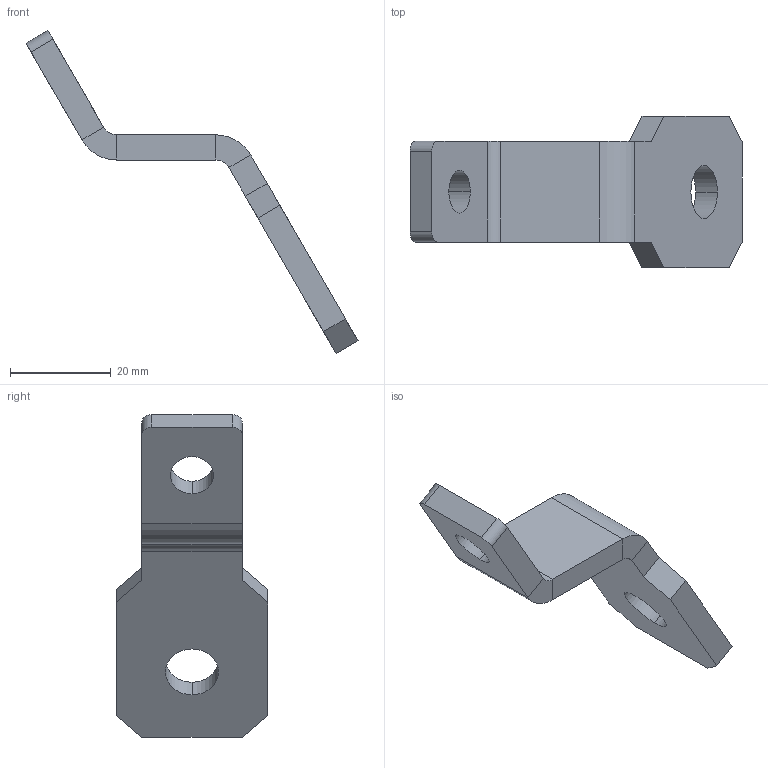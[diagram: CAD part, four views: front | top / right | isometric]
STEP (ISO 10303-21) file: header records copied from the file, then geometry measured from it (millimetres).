
FILE_DESCRIPTION (( 'STEP AP203' ), '1' );
FILE_NAME ('8LD.580.1051.STEP', '2023-09-21T10:59:41', ( '' ), ( '' ), 'SwSTEP 2.0', 'SolidWorks 2018', '' );
FILE_SCHEMA (( 'CONFIG_CONTROL_DESIGN' ));
Length unit declared in the file: millimetre
Products named in the file (1): 8LD.580.1051
Bounding box: 65.82 x 30 x 64 mm (x, y, z)
Volume: 10405.5 mm3; surface area: 5651.6 mm2
Topology: 1 solids, 1 shells, 34 faces, 80 edges, 48 vertices
Faces by surface type: plane 24, cylinder 10
Entity records: 1041 total; most frequent: DIRECTION 170, CARTESIAN_POINT 163, ORIENTED_EDGE 160, EDGE_CURVE 80, VECTOR 60, LINE 60, AXIS2_PLACEMENT_3D 55, VERTEX_POINT 48
